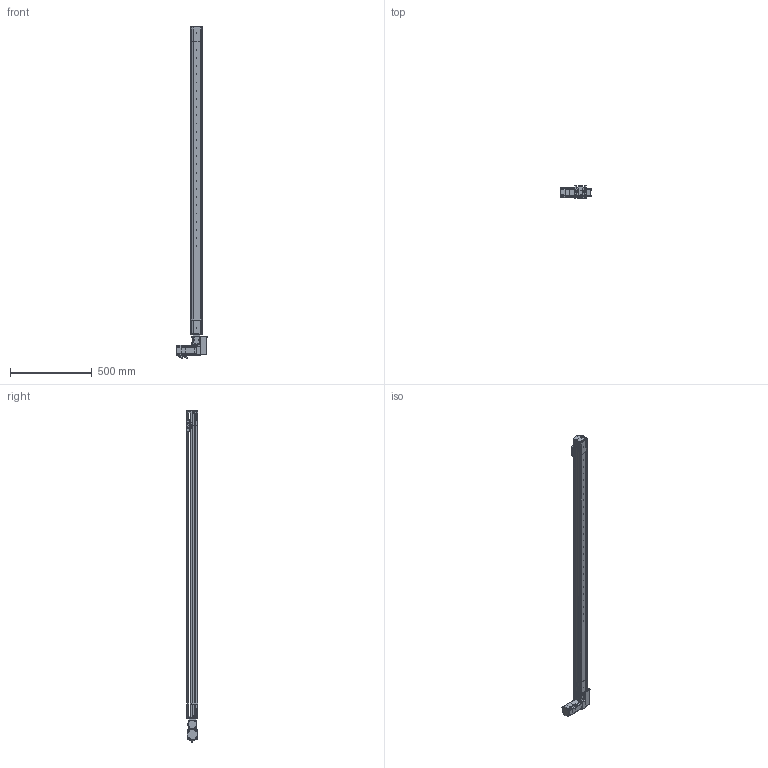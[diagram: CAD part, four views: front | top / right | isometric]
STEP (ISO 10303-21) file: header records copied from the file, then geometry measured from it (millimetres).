
FILE_DESCRIPTION (( 'STEP AP214' ), '1' );
FILE_NAME ('S07 TBN LH S1700.STEP', '2010-06-29T12:19:02', ( 'Conseil Régional Haute-Normandie' ), ( 'Conseil Régional Haute-Normandie' ), 'SwSTEP 2.0', 'SolidWorks 2010', '' );
FILE_SCHEMA (( 'AUTOMOTIVE_DESIGN' ));
Length unit declared in the file: millimetre
Products named in the file (41): S07 LH(146)_Default; couvercle moteur S07 TB; plaque de bout LH_Default; corp moteur LH-RH(146)_Default; plaque de bout_Default; corp tail TB_Default; S07 TB tail (78)_Default; Vis M5 L16-2_Default; Cvis M5 L30_Default; VisM3_Default; Conecteur2 60BLDC_Default; Conecteur 60BLDC_Default; Axe 60BLDC_Default; P2 90A_Default; P1_Default; GMB 60 90 310_Default; P4_Default; P3 90A_Default; cache t皻e axe_Default; Poulie head_Default; renvoi LH_Default; Plaque racord_Default; cache t皻e_Default; Couroie t皻e_Default; Pièce5^S07 LH(146); vis M5 L5_Default; couvercle S07 course 1700 ; vis M5 L16_Default; Chariot; guide; CHariot_Default; couroie tail_Default; vis M5 L12_Default; Poulie_Default; T皻e de poulie_Default; couvercle tail TB; S07 TBN LH S1700; Couroie  course 1700_Default; Corp S07 course 1700_Default; Course C L1700_Default
Assembly tree (80 placements, depth 4):
  Pièce5^S07 LH(146)
  S07 TBN LH S1700
    CHariot_Default
      Chariot
      vis M5 L16_Default  x2
      guide
    Course C L1700_Default
      couvercle S07 course 1700 
      Couroie  course 1700_Default
      Corp S07 course 1700_Default
    S07 LH(146)_Default
      Vis M5 L16-2_Default  x8
      vis M5 L5_Default  x6
      renvoi LH_Default
      Poulie head_Default
      vis M5 L12_Default  x6
      Cvis M5 L30_Default  x2
      couvercle moteur S07 TB
      Couroie t皻e_Default
      cache t皻e axe_Default
      corp moteur LH-RH(146)_Default
      cache t皻e_Default  x2
      Plaque racord_Default
      GMB 60 90 310_Default
        VisM3_Default  x12
        P1_Default
        P4_Default
        Axe 60BLDC_Default
        P3 90A_Default
        Conecteur2 60BLDC_Default
        Conecteur 60BLDC_Default
        P2 90A_Default
      plaque de bout LH_Default
    S07 TB tail (78)_Default
      vis M5 L12_Default  x10
      couroie tail_Default
      couvercle tail TB
      plaque de bout_Default
      corp tail TB_Default
      Poulie_Default
        Poulie_Default
        T皻e de poulie_Default
Bounding box: 190.2 x 72.2 x 2027 mm (x, y, z)
Volume: 3741261.9 mm3; surface area: 1646644.4 mm2
Topology: 102 solids, 102 shells, 3954 faces, 9834 edges, 6353 vertices
Faces by surface type: plane 2241, cylinder 783, bspline 677, cone 125, torus 124, sphere 4
Entity records: 168061 total; most frequent: CARTESIAN_POINT 75345, ORIENTED_EDGE 15580, DIRECTION 12461, EDGE_CURVE 7790, VERTEX_POINT 5141, VECTOR 5067, LINE 5067, AXIS2_PLACEMENT_3D 3697
